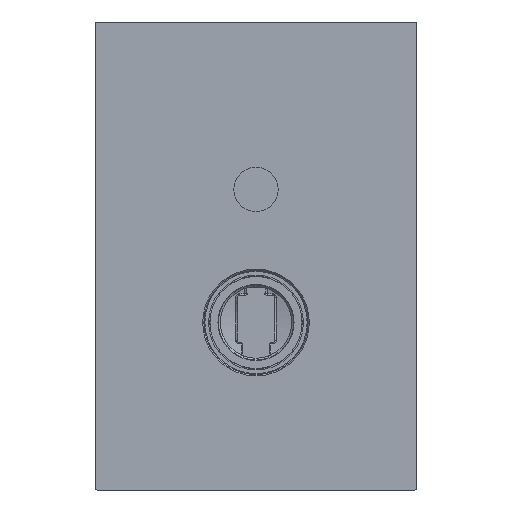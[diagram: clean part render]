
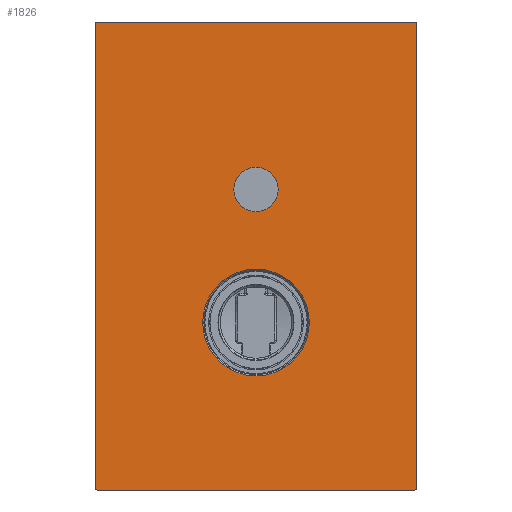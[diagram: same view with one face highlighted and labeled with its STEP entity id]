
A CAD part, front view. The second image highlights one B-rep face of the part: STEP entity #1826.
In plain terms, the highlighted planar face has unit normal (0, -1, 0).
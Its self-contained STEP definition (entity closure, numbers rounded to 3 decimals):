
#1291=CARTESIAN_POINT('',(64.5,0.,-94.5));
#1292=DIRECTION('',(0.,1.,0.));
#1293=DIRECTION('',(1.,0.,0.));
#1294=AXIS2_PLACEMENT_3D('',#1291,#1292,#1293);
#1296=CARTESIAN_POINT('',(-64.5,0.,-94.5));
#1297=DIRECTION('',(0.,1.,0.));
#1298=DIRECTION('',(0.,0.,-1.));
#1299=AXIS2_PLACEMENT_3D('',#1296,#1297,#1298);
#1301=CARTESIAN_POINT('',(-64.5,0.,94.5));
#1302=DIRECTION('',(0.,1.,0.));
#1303=DIRECTION('',(-1.,0.,0.));
#1304=AXIS2_PLACEMENT_3D('',#1301,#1302,#1303);
#1306=CARTESIAN_POINT('',(64.5,0.,94.5));
#1307=DIRECTION('',(0.,1.,0.));
#1308=DIRECTION('',(0.,0.,1.));
#1309=AXIS2_PLACEMENT_3D('',#1306,#1307,#1308);
#1311=CARTESIAN_POINT('',(0.,0.,27.));
#1312=DIRECTION('',(0.,-1.,0.));
#1313=DIRECTION('',(-1.,0.,0.));
#1314=AXIS2_PLACEMENT_3D('',#1311,#1312,#1313);
#1316=CARTESIAN_POINT('',(0.,0.,27.));
#1317=DIRECTION('',(0.,-1.,0.));
#1318=DIRECTION('',(1.,0.,0.));
#1319=AXIS2_PLACEMENT_3D('',#1316,#1317,#1318);
#1321=CARTESIAN_POINT('',(0.,0.,-27.));
#1322=DIRECTION('',(0.,-1.,0.));
#1323=DIRECTION('',(1.,0.,0.));
#1324=AXIS2_PLACEMENT_3D('',#1321,#1322,#1323);
#1326=CARTESIAN_POINT('',(0.,0.,-27.));
#1327=DIRECTION('',(0.,-1.,0.));
#1328=DIRECTION('',(0.,0.,1.));
#1329=AXIS2_PLACEMENT_3D('',#1326,#1327,#1328);
#1331=CARTESIAN_POINT('',(0.,0.,-27.));
#1332=DIRECTION('',(0.,-1.,0.));
#1333=DIRECTION('',(-1.,0.,0.));
#1334=AXIS2_PLACEMENT_3D('',#1331,#1332,#1333);
#1336=CARTESIAN_POINT('',(0.,0.,-27.));
#1337=DIRECTION('',(0.,-1.,0.));
#1338=DIRECTION('',(0.,0.,-1.));
#1339=AXIS2_PLACEMENT_3D('',#1336,#1337,#1338);
#1375=DIRECTION('',(0.,0.,1.));
#1376=VECTOR('',#1375,189.);
#1377=CARTESIAN_POINT('',(65.,0.,-94.5));
#1378=LINE('',#1377,#1376);
#1415=DIRECTION('',(-1.,0.,0.));
#1416=VECTOR('',#1415,129.);
#1417=CARTESIAN_POINT('',(64.5,0.,95.));
#1418=LINE('',#1417,#1416);
#1453=DIRECTION('',(0.,0.,-1.));
#1454=VECTOR('',#1453,189.);
#1455=CARTESIAN_POINT('',(-65.,0.,94.5));
#1456=LINE('',#1455,#1454);
#1493=DIRECTION('',(1.,0.,0.));
#1494=VECTOR('',#1493,129.);
#1495=CARTESIAN_POINT('',(-64.5,0.,-95.));
#1496=LINE('',#1495,#1494);
#1697=CARTESIAN_POINT('',(65.,0.,-94.5));
#1698=CARTESIAN_POINT('',(64.5,0.,-95.));
#1699=VERTEX_POINT('',#1697);
#1700=VERTEX_POINT('',#1698);
#1701=CARTESIAN_POINT('',(-64.5,0.,-95.));
#1702=VERTEX_POINT('',#1701);
#1703=CARTESIAN_POINT('',(-65.,0.,-94.5));
#1704=VERTEX_POINT('',#1703);
#1705=CARTESIAN_POINT('',(-65.,0.,94.5));
#1706=VERTEX_POINT('',#1705);
#1707=CARTESIAN_POINT('',(-64.5,0.,95.));
#1708=VERTEX_POINT('',#1707);
#1709=CARTESIAN_POINT('',(64.5,0.,95.));
#1710=VERTEX_POINT('',#1709);
#1711=CARTESIAN_POINT('',(65.,0.,94.5));
#1712=VERTEX_POINT('',#1711);
#1713=CARTESIAN_POINT('',(-9.,0.,27.));
#1714=CARTESIAN_POINT('',(9.,0.,27.));
#1715=VERTEX_POINT('',#1713);
#1716=VERTEX_POINT('',#1714);
#1717=CARTESIAN_POINT('',(0.,0.,
-5.35));
#1718=CARTESIAN_POINT('',(-21.65,0.,-27.));
#1719=VERTEX_POINT('',#1717);
#1720=VERTEX_POINT('',#1718);
#1721=CARTESIAN_POINT('',(21.65,0.,-27.));
#1722=VERTEX_POINT('',#1721);
#1723=CARTESIAN_POINT('',(0.,0.,
-48.65));
#1724=VERTEX_POINT('',#1723);
#1787=CARTESIAN_POINT('',(0.,0.,0.));
#1788=DIRECTION('',(0.,1.,0.));
#1789=DIRECTION('',(1.,0.,0.));
#1790=AXIS2_PLACEMENT_3D('',#1787,#1788,#1789);
#1791=PLANE('',#1790);
#1793=ORIENTED_EDGE('',*,*,#1792,.T.);
#1795=ORIENTED_EDGE('',*,*,#1794,.F.);
#1797=ORIENTED_EDGE('',*,*,#1796,.T.);
#1799=ORIENTED_EDGE('',*,*,#1798,.F.);
#1801=ORIENTED_EDGE('',*,*,#1800,.T.);
#1803=ORIENTED_EDGE('',*,*,#1802,.F.);
#1805=ORIENTED_EDGE('',*,*,#1804,.T.);
#1807=ORIENTED_EDGE('',*,*,#1806,.F.);
#1808=EDGE_LOOP('',(#1793,#1795,#1797,#1799,#1801,#1803,#1805,#1807));
#1809=FACE_OUTER_BOUND('',#1808,.F.);
#1811=ORIENTED_EDGE('',*,*,#1810,.T.);
#1813=ORIENTED_EDGE('',*,*,#1812,.T.);
#1814=EDGE_LOOP('',(#1811,#1813));
#1815=FACE_BOUND('',#1814,.F.);
#1817=ORIENTED_EDGE('',*,*,#1816,.T.);
#1819=ORIENTED_EDGE('',*,*,#1818,.T.);
#1821=ORIENTED_EDGE('',*,*,#1820,.T.);
#1823=ORIENTED_EDGE('',*,*,#1822,.T.);
#1824=EDGE_LOOP('',(#1817,#1819,#1821,#1823));
#1825=FACE_BOUND('',#1824,.F.);
#1826=ADVANCED_FACE('',(#1809,#1815,#1825),#1791,.F.);
#1295=CIRCLE('',#1294,0.5);
#1300=CIRCLE('',#1299,0.5);
#1305=CIRCLE('',#1304,0.5);
#1310=CIRCLE('',#1309,0.5);
#1315=CIRCLE('',#1314,9.);
#1320=CIRCLE('',#1319,9.);
#1325=CIRCLE('',#1324,21.65);
#1330=CIRCLE('',#1329,21.65);
#1335=CIRCLE('',#1334,21.65);
#1340=CIRCLE('',#1339,21.65);
#1792=EDGE_CURVE('',#1699,#1700,#1295,.T.);
#1794=EDGE_CURVE('',#1702,#1700,#1496,.T.);
#1796=EDGE_CURVE('',#1702,#1704,#1300,.T.);
#1798=EDGE_CURVE('',#1706,#1704,#1456,.T.);
#1800=EDGE_CURVE('',#1706,#1708,#1305,.T.);
#1802=EDGE_CURVE('',#1710,#1708,#1418,.T.);
#1804=EDGE_CURVE('',#1710,#1712,#1310,.T.);
#1806=EDGE_CURVE('',#1699,#1712,#1378,.T.);
#1810=EDGE_CURVE('',#1715,#1716,#1315,.T.);
#1812=EDGE_CURVE('',#1716,#1715,#1320,.T.);
#1816=EDGE_CURVE('',#1722,#1719,#1325,.T.);
#1818=EDGE_CURVE('',#1719,#1720,#1330,.T.);
#1820=EDGE_CURVE('',#1720,#1724,#1335,.T.);
#1822=EDGE_CURVE('',#1724,#1722,#1340,.T.);
